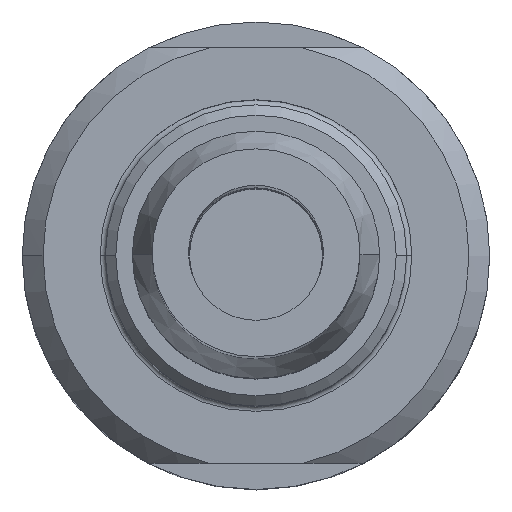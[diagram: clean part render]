
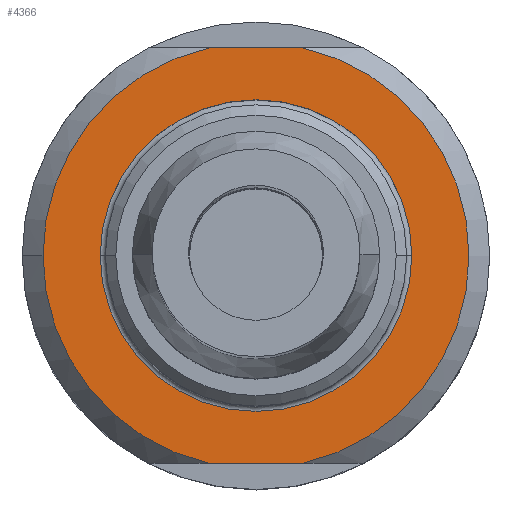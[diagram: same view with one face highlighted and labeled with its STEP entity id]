
A CAD part, top view. The second image highlights one B-rep face of the part: STEP entity #4366.
In plain terms, the highlighted planar face has unit normal (0, 0, 1).
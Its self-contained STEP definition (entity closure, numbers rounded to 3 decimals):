
#76 = DIRECTION ( 'NONE',  ( 1., 0., 0. ) ) ;
#117 = DIRECTION ( 'NONE',  ( 0., 0., -1. ) ) ;
#158 = CARTESIAN_POINT ( 'NONE',  ( 2.25, 10., 22.05 ) ) ;
#607 = CARTESIAN_POINT ( 'NONE',  ( -10.25, 0., 22.05 ) ) ;
#855 = ORIENTED_EDGE ( 'NONE', *, *, #4538, .F. ) ;
#873 = EDGE_CURVE ( 'NONE', #2102, #4226, #4772, .T. ) ;
#1178 = CIRCLE ( 'NONE', #3214, 10.25 ) ;
#1186 = VERTEX_POINT ( 'NONE', #158 ) ;
#1373 = ORIENTED_EDGE ( 'NONE', *, *, #873, .T. ) ;
#1381 = ORIENTED_EDGE ( 'NONE', *, *, #3929, .F. ) ;
#1557 = CARTESIAN_POINT ( 'NONE',  ( -23.067, 10., 22.05 ) ) ;
#1563 = CARTESIAN_POINT ( 'NONE',  ( 0., 0., 22.05 ) ) ;
#1877 = CARTESIAN_POINT ( 'NONE',  ( 0., 0., 22.05 ) ) ;
#2028 = EDGE_CURVE ( 'NONE', #6291, #6595, #8523, .T. ) ;
#2102 = VERTEX_POINT ( 'NONE', #2225 ) ;
#2184 = ORIENTED_EDGE ( 'NONE', *, *, #2028, .T. ) ;
#2195 = DIRECTION ( 'NONE',  ( -1., 0., 0. ) ) ;
#2225 = CARTESIAN_POINT ( 'NONE',  ( 7.5, 0., 22.05 ) ) ;
#2518 = DIRECTION ( 'NONE',  ( -1., 0., 0. ) ) ;
#2706 = PLANE ( 'NONE',  #8486 ) ;
#2896 = DIRECTION ( 'NONE',  ( -1., 0., 0. ) ) ;
#3214 = AXIS2_PLACEMENT_3D ( 'NONE', #6373, #117, #2896 ) ;
#3263 = AXIS2_PLACEMENT_3D ( 'NONE', #1563, #3707, #7219 ) ;
#3320 = AXIS2_PLACEMENT_3D ( 'NONE', #5094, #4541, #8656 ) ;
#3417 = CARTESIAN_POINT ( 'NONE',  ( -2.25, -10., 22.05 ) ) ;
#3561 = CARTESIAN_POINT ( 'NONE',  ( 2.25, -10., 22.05 ) ) ;
#3707 = DIRECTION ( 'NONE',  ( 0., 0., -1. ) ) ;
#3729 = EDGE_CURVE ( 'NONE', #4226, #2102, #8932, .T. ) ;
#3858 = EDGE_LOOP ( 'NONE', ( #7472, #2184, #1381, #5109, #855 ) ) ;
#3929 = EDGE_CURVE ( 'NONE', #1186, #6595, #4285, .T. ) ;
#3953 = CARTESIAN_POINT ( 'NONE',  ( 0., 0., 22.05 ) ) ;
#4096 = VERTEX_POINT ( 'NONE', #6976 ) ;
#4226 = VERTEX_POINT ( 'NONE', #7240 ) ;
#4285 = CIRCLE ( 'NONE', #8792, 10.25 ) ;
#4293 = LINE ( 'NONE', #1557, #4409 ) ;
#4366 = ADVANCED_FACE ( 'NONE', ( #4802, #5368 ), #2706, .T. ) ;
#4409 = VECTOR ( 'NONE', #2195, 1000. ) ;
#4538 = EDGE_CURVE ( 'NONE', #4733, #4096, #1178, .T. ) ;
#4541 = DIRECTION ( 'NONE',  ( 0., 0., -1. ) ) ;
#4677 = DIRECTION ( 'NONE',  ( 1., 0., 0. ) ) ;
#4733 = VERTEX_POINT ( 'NONE', #607 ) ;
#4772 = CIRCLE ( 'NONE', #3320, 7.5 ) ;
#4802 = FACE_BOUND ( 'NONE', #5568, .T. ) ;
#5014 = AXIS2_PLACEMENT_3D ( 'NONE', #3953, #6149, #5413 ) ;
#5094 = CARTESIAN_POINT ( 'NONE',  ( 0., 0., 22.05 ) ) ;
#5109 = ORIENTED_EDGE ( 'NONE', *, *, #6462, .T. ) ;
#5209 = VECTOR ( 'NONE', #76, 1000. ) ;
#5310 = CIRCLE ( 'NONE', #5014, 10.25 ) ;
#5368 = FACE_OUTER_BOUND ( 'NONE', #3858, .T. ) ;
#5413 = DIRECTION ( 'NONE',  ( -1., 0., 0. ) ) ;
#5455 = DIRECTION ( 'NONE',  ( 0., 0., 1. ) ) ;
#5568 = EDGE_LOOP ( 'NONE', ( #6801, #1373 ) ) ;
#5989 = DIRECTION ( 'NONE',  ( 0., 0., -1. ) ) ;
#6149 = DIRECTION ( 'NONE',  ( 0., 0., -1. ) ) ;
#6291 = VERTEX_POINT ( 'NONE', #3417 ) ;
#6373 = CARTESIAN_POINT ( 'NONE',  ( 0., 0., 22.05 ) ) ;
#6462 = EDGE_CURVE ( 'NONE', #1186, #4096, #4293, .T. ) ;
#6595 = VERTEX_POINT ( 'NONE', #3561 ) ;
#6801 = ORIENTED_EDGE ( 'NONE', *, *, #3729, .T. ) ;
#6976 = CARTESIAN_POINT ( 'NONE',  ( -2.25, 10., 22.05 ) ) ;
#7219 = DIRECTION ( 'NONE',  ( -1., 0., 0. ) ) ;
#7240 = CARTESIAN_POINT ( 'NONE',  ( -7.5, 0., 22.05 ) ) ;
#7472 = ORIENTED_EDGE ( 'NONE', *, *, #8667, .F. ) ;
#8153 = CARTESIAN_POINT ( 'NONE',  ( 0., 10.25, 22.05 ) ) ;
#8379 = CARTESIAN_POINT ( 'NONE',  ( -23.067, -10., 22.05 ) ) ;
#8486 = AXIS2_PLACEMENT_3D ( 'NONE', #8153, #5455, #4677 ) ;
#8523 = LINE ( 'NONE', #8379, #5209 ) ;
#8656 = DIRECTION ( 'NONE',  ( -1., 0., 0. ) ) ;
#8667 = EDGE_CURVE ( 'NONE', #6291, #4733, #5310, .T. ) ;
#8792 = AXIS2_PLACEMENT_3D ( 'NONE', #1877, #5989, #2518 ) ;
#8932 = CIRCLE ( 'NONE', #3263, 7.5 ) ;
